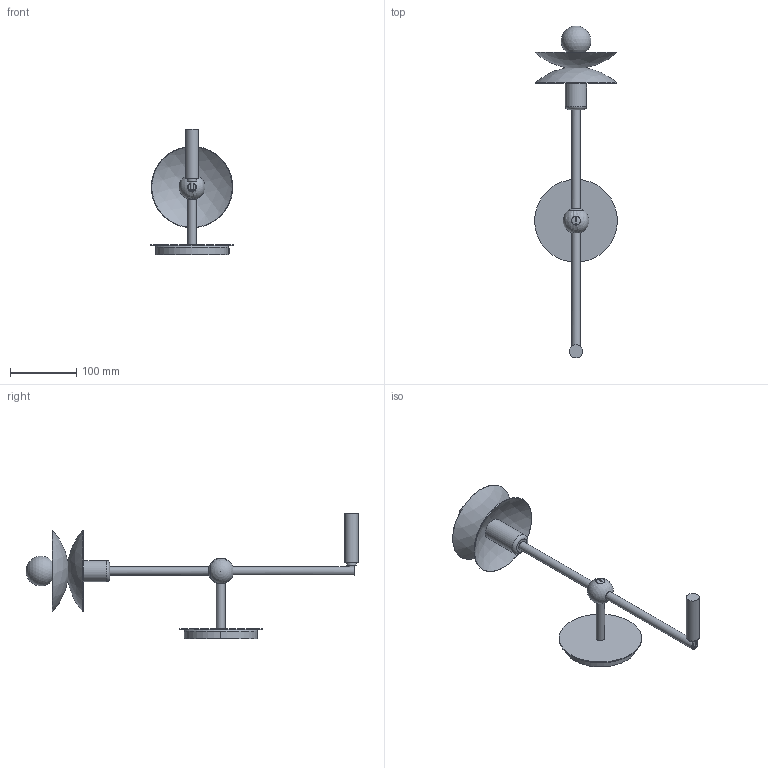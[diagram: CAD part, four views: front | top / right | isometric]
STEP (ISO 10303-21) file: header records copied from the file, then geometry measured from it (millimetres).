
FILE_DESCRIPTION(/* description */ (''),/* implementation_level */ '2;1');
FILE_NAME(/* name */ '260910_B_B907.stp',/* time_stamp */ '2026-09-10T09:32:55+02:00',/* author */ ('Dominik'),/* organization */ (''),/* preprocessor_version */ 'ST-DEVELOPER v20.1',/* originating_system */ 'Autodesk Inventor 2027',/* authorisation */ '');
FILE_SCHEMA (('AUTOMOTIVE_DESIGN { 1 0 10303 214 3 1 1 }'));
Length unit declared in the file: millimetre
Products named in the file (1): B907 jako część
Bounding box: 125 x 501.37 x 188.8 mm (x, y, z)
Volume: 396901.6 mm3; surface area: 126822.9 mm2
Topology: 2 solids, 3 shells, 89 faces, 206 edges, 145 vertices
Faces by surface type: plane 36, cylinder 31, sphere 9, torus 8, cone 3, bspline 2
Full cylindrical faces by diameter (mm): 7.6 x1, 11.6 x2, 11.917 x1, 13 x3, 13.1 x1, 13.5 x3, 14 x1, 20 x1, 23.1 x1, 23.5 x1, 28 x1, 29 x2, 32 x1, 39.5 x2, 125 x1
Entity records: 3073 total; most frequent: CARTESIAN_POINT 775, DIRECTION 480, ORIENTED_EDGE 390, AXIS2_PLACEMENT_3D 204, EDGE_CURVE 195, VERTEX_POINT 126, EDGE_LOOP 112, CIRCLE 112
